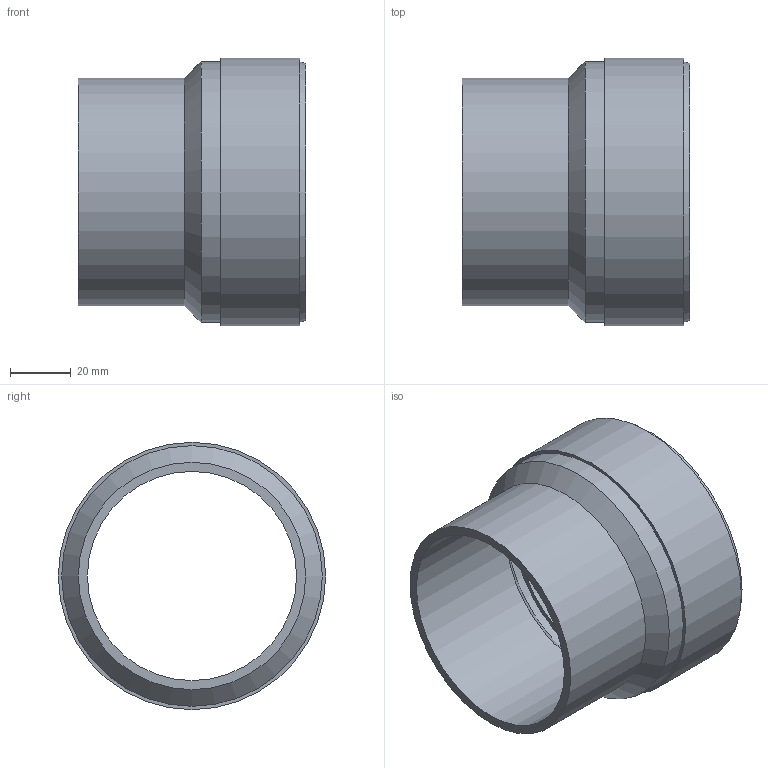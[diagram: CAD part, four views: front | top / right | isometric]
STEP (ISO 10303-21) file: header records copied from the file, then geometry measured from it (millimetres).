
FILE_DESCRIPTION(/* description */ (''),/* implementation_level */ '2;1');
FILE_NAME(/* name */ 'Z:\Geberit\Export\NewStep\PE Übergang mit Innengewinde 2\stp\365725.stp',/* time_stamp */ '2014-04-03T19:13:29+02:00',/* author */ ('nelson'),/* organization */ (''),/* preprocessor_version */ 'ST-DEVELOPER v15.2',/* originating_system */ 'Autodesk Inventor 2014',/* authorisation */ '');
FILE_SCHEMA (('AUTOMOTIVE_DESIGN { 1 0 10303 214 3 1 1 }'));
Length unit declared in the file: millimetre
Products named in the file (1): 365725
Bounding box: 75 x 88.2 x 88.2 mm (x, y, z)
Volume: 97444.8 mm3; surface area: 39830.3 mm2
Topology: 1 solids, 1 shells, 14 faces, 24 edges, 15 vertices
Faces by surface type: cylinder 6, plane 5, cone 3
Full cylindrical faces by diameter (mm): 69 x1, 72.226 x1, 75 x1, 75.184 x1, 86 x1, 88.2 x1
Entity records: 319 total; most frequent: DIRECTION 58, CARTESIAN_POINT 43, AXIS2_PLACEMENT_3D 29, EDGE_LOOP 28, ORIENTED_EDGE 28, FACE_BOUND 18, CIRCLE 14, VERTEX_POINT 14
